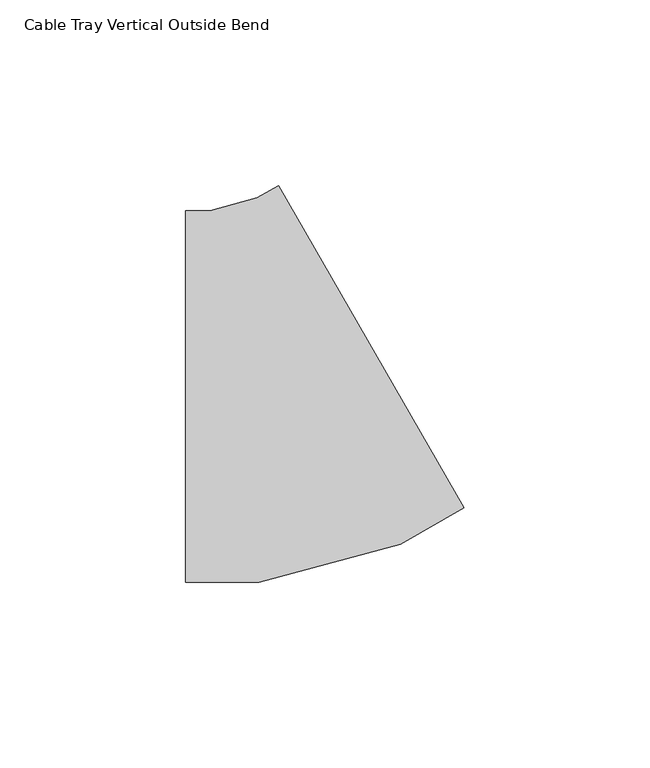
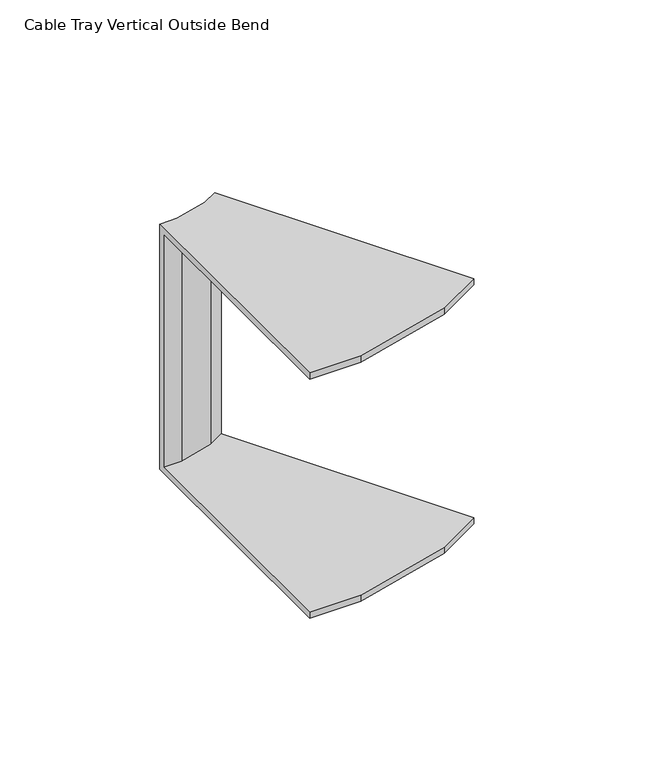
"""IFC4 building model written with IfcOpenShell, lengths in millimetres: cable carrier fitting geometry, Cable Tray Vertical Outside Bend : ELEC_ELV_TKG_N2402."""

from ifc_helpers import new_model, si_unit, origin, place, context, project, spatial, faceted_brep, source, transform, mapped, element, save


def cable_tray_vertical_outside_bend_6aaffd74(model_context):
    return source(origin(), model_context, "Body", "Brep", [
        faceted_brep([(-26.7949192, -50.0, 50.0), (-26.7949192, 50.0, 50.0), (-26.7949192, 50.0, -50.0), (-26.7949192, -50.0, -50.0), (-26.7949192, -50.0, -47.46), (-26.7949192, 47.46, -47.46), (-26.7949192, 47.46, 47.46), (-26.7949192, -50.0, 47.46), (48.2050808, -29.9038106, 50.0), (48.2050808, -29.9038106, 47.46), (-0.5249192, 54.4990253, 47.46), (-0.5249192, 54.4990253, -47.46), (48.2050808, -29.9038106, -47.46), (48.2050808, -29.9038106, -50.0), (-1.7949192, 56.6987298, -50.0), (-1.7949192, 56.6987298, 50.0), (-7.0470446, -50.0, 50.0), (31.1029196, -39.7777479, 50.0), (-7.4956396, 53.4074174, 50.0), (-20.2122944, 50.0, 50.0), (-20.2122944, 50.0, -50.0), (-7.4956396, 53.4074174, -50.0), (31.1029196, -39.7777479, -50.0), (-7.0470446, -50.0, -50.0), (-7.0470446, -50.0, -47.46), (31.1029196, -39.7777479, -47.46), (-6.5152362, 51.0405142, -47.46), (-19.877897, 47.46, -47.46), (-19.877897, 47.46, 47.46), (-6.5152362, 51.0405142, 47.46), (31.1029196, -39.7777479, 47.46), (-7.0470446, -50.0, 47.46)], [[[0, 1, 2, 3, 4, 5, 6, 7]], [[8, 9, 10, 11, 12, 13, 14, 15]], [[1, 0, 16, 17, 8, 15, 18, 19]], [[2, 1, 19, 20]], [[3, 2, 20, 21, 14, 13, 22, 23]], [[4, 3, 23, 24]], [[5, 4, 24, 25, 12, 11, 26, 27]], [[6, 5, 27, 28]], [[7, 6, 28, 29, 10, 9, 30, 31]], [[0, 7, 31, 16]], [[20, 19, 18, 21]], [[24, 23, 22, 25]], [[28, 27, 26, 29]], [[16, 31, 30, 17]], [[21, 18, 15, 14]], [[25, 22, 13, 12]], [[29, 26, 11, 10]], [[17, 30, 9, 8]]]),
    ])


if __name__ == "__main__":
    model = new_model("IFC4")
    model_context = context("Model", 3, world=origin())
    ifc_project = project(units=[si_unit("LENGTHUNIT", "METRE", prefix="MILLI")], contexts=[model_context])
    site = spatial("IfcSite", under=ifc_project)
    building = spatial("IfcBuilding", under=site)
    placement = place(None, origin())
    cable_tray_vertical_outside_bend_shape = cable_tray_vertical_outside_bend_6aaffd74(model_context)
    element("IfcCableCarrierFitting", 1, ObjectType="Cable Tray Vertical Outside Bend : ELEC_ELV_TKG_N2402", at=placement, inside=building, context=model_context, shape_type="MappedRepresentation", body=[
        mapped(cable_tray_vertical_outside_bend_shape, transform((0.0, 0.0, 0.0), x_axis=(1.0, 0.0, 0.0), y_axis=(0.0, 1.0, 0.0), z_axis=(0.0, 0.0, 1.0))),
    ])
    save(model, "model.ifc")
